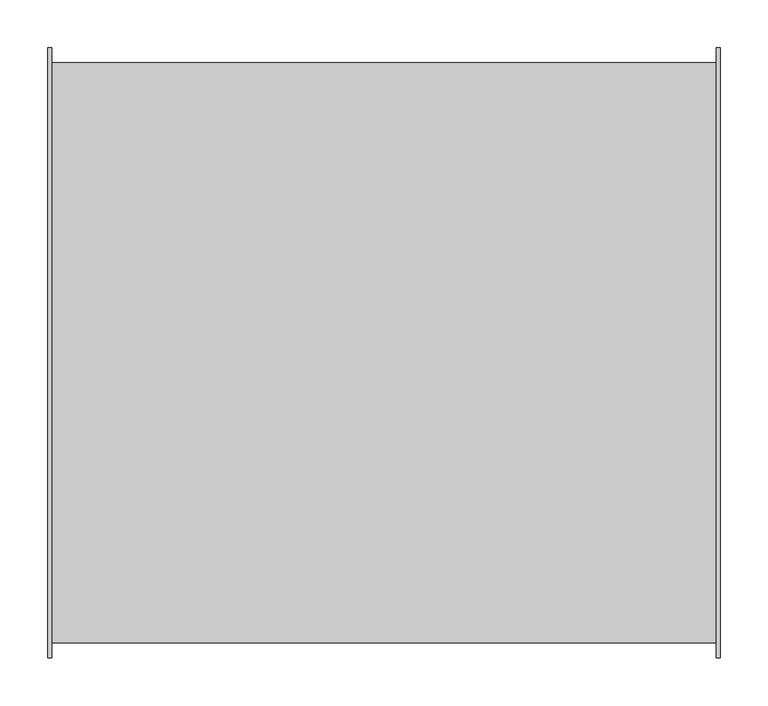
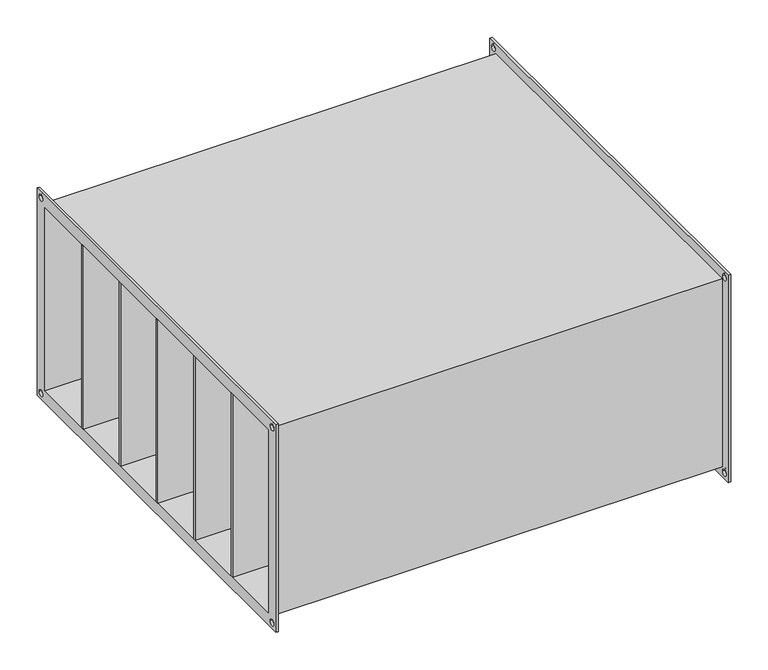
"""IFC4 building model written with IfcOpenShell, lengths in millimetres: damper geometry, СВ_ФильтрКарманный_КанальныйПрямоугольный_200-1000_SFPK : SFPK-600x300."""

from ifc_helpers import new_model, si_unit, frame, origin, place, context, project, spatial, polyline, circle_curve, outline, extrude, source, transform, mapped, element, save
from ifc_brep_helpers import plane_surface, revolved_surface, advanced_brep


def damper_8f06f76a(model_context):
    return source(origin(), model_context, "Body", "SolidModel", [
        extrude(outline(polyline([(352.5, 200.0), (352.5, 196.0), (-352.5, 196.0), (-352.5, 200.0), (352.5, 200.0)])), frame((0.0, 0.0, -150.0), z_axis=(0.0, 0.0, 1.0), x_axis=(1.0, 0.0, 0.0)), (0.0, 0.0, 1.0), 300.0),
        extrude(outline(polyline([(352.5, 100.0), (352.5, 96.0), (-352.5, 96.0), (-352.5, 100.0), (352.5, 100.0)])), frame((0.0, 0.0, -150.0), z_axis=(0.0, 0.0, 1.0), x_axis=(1.0, 0.0, 0.0)), (0.0, 0.0, 1.0), 300.0),
        extrude(outline(polyline([(352.5, 0.0), (352.5, -4.0), (-352.5, -4.0), (-352.5, 0.0), (352.5, 0.0)])), frame((0.0, 0.0, -150.0), z_axis=(0.0, 0.0, 1.0), x_axis=(1.0, 0.0, 0.0)), (0.0, 0.0, 1.0), 300.0),
        extrude(outline(polyline([(352.5, -100.0), (352.5, -104.0), (-352.5, -104.0), (-352.5, -100.0), (352.5, -100.0)])), frame((0.0, 0.0, -150.0), z_axis=(0.0, 0.0, 1.0), x_axis=(1.0, 0.0, 0.0)), (0.0, 0.0, 1.0), 300.0),
        extrude(outline(polyline([(352.5, -200.0), (352.5, -204.0), (-352.5, -204.0), (-352.5, -200.0), (352.5, -200.0)])), frame((0.0, 0.0, -150.0), z_axis=(0.0, 0.0, 1.0), x_axis=(1.0, 0.0, 0.0)), (0.0, 0.0, 1.0), 300.0),
        advanced_brep(
        [(348.5, -304.0, 154.0), (-348.5, -304.0, 154.0), (-348.5, -304.0, -154.0), (348.5, -304.0, -154.0), (-348.5, 304.0, -154.0), (348.5, 304.0, -154.0), (-348.5, 304.0, 154.0), (348.5, 304.0, 154.0), (-352.5, -320.0, 170.0), (-352.5, 320.0, 170.0), (-352.5, 320.0, -170.0), (-352.5, -320.0, -170.0), (-352.5, -300.0, 150.0), (-352.5, -300.0, -150.0), (-352.5, 300.0, -150.0), (-352.5, 300.0, 150.0), (-352.5, 305.0, 160.0), (-352.5, 315.0, 160.0), (-352.5, -315.0, 160.0), (-352.5, -305.0, 160.0), (-352.5, -315.0, -160.0), (-352.5, -305.0, -160.0), (-352.5, 305.0, -160.0), (-352.5, 315.0, -160.0), (-348.5, -320.0, 170.0), (-348.5, -320.0, -170.0), (-348.5, 320.0, -170.0), (-348.5, 320.0, 170.0), (-348.5, 315.0, 160.0), (-348.5, 305.0, 160.0), (-348.5, -305.0, 160.0), (-348.5, -315.0, 160.0), (-348.5, -305.0, -160.0), (-348.5, -315.0, -160.0), (-348.5, 315.0, -160.0), (-348.5, 305.0, -160.0), (348.5, 320.0, 170.0), (348.5, 320.0, -170.0), (348.5, -320.0, -170.0), (348.5, -320.0, 170.0), (348.5, 305.0, 160.0), (348.5, 315.0, 160.0), (348.5, -315.0, 160.0), (348.5, -305.0, 160.0), (348.5, -315.0, -160.0), (348.5, -305.0, -160.0), (348.5, 305.0, -160.0), (348.5, 315.0, -160.0), (352.5, 320.0, 170.0), (352.5, -320.0, 170.0), (352.5, -320.0, -170.0), (352.5, 320.0, -170.0), (352.5, 300.0, 150.0), (352.5, 300.0, -150.0), (352.5, -300.0, -150.0), (352.5, -300.0, 150.0), (352.5, 315.0, 160.0), (352.5, 305.0, 160.0), (352.5, -305.0, 160.0), (352.5, -315.0, 160.0), (352.5, -305.0, -160.0), (352.5, -315.0, -160.0), (352.5, 315.0, -160.0), (352.5, 305.0, -160.0)],
        [
            (0, 1),
            (1, 2),
            (2, 3),
            (3, 0),
            (2, 4),
            (4, 5),
            (5, 3),
            (4, 6),
            (6, 7),
            (7, 5),
            (0, 7),
            (6, 1),
            (8, 9),
            (9, 10),
            (10, 11),
            (11, 8),
            (12, 13),
            (13, 14),
            (14, 15),
            (15, 12),
            (16, 17, circle_curve(frame((-352.5, 310.0, 160.0), z_axis=(1.0, 0.0, 0.0), x_axis=(0.0, 1.0, 0.0)), 5.0)),
            (17, 16, circle_curve(frame((-352.5, 310.0, 160.0), z_axis=(1.0, 0.0, 0.0), x_axis=(0.0, 1.0, 0.0)), 5.0)),
            (18, 19, circle_curve(frame((-352.5, -310.0, 160.0), z_axis=(1.0, 0.0, 0.0), x_axis=(0.0, 1.0, 0.0)), 5.0)),
            (19, 18, circle_curve(frame((-352.5, -310.0, 160.0), z_axis=(1.0, 0.0, 0.0), x_axis=(0.0, 1.0, 0.0)), 5.0)),
            (20, 21, circle_curve(frame((-352.5, -310.0, -160.0), z_axis=(1.0, 0.0, 0.0), x_axis=(0.0, 1.0, 0.0)), 5.0)),
            (21, 20, circle_curve(frame((-352.5, -310.0, -160.0), z_axis=(1.0, 0.0, 0.0), x_axis=(0.0, 1.0, 0.0)), 5.0)),
            (22, 23, circle_curve(frame((-352.5, 310.0, -160.0), z_axis=(1.0, 0.0, 0.0), x_axis=(0.0, 1.0, 0.0)), 5.0)),
            (23, 22, circle_curve(frame((-352.5, 310.0, -160.0), z_axis=(1.0, 0.0, 0.0), x_axis=(0.0, 1.0, 0.0)), 5.0)),
            (24, 25),
            (25, 26),
            (26, 27),
            (27, 24),
            (28, 29, circle_curve(frame((-348.5, 310.0, 160.0), z_axis=(-1.0, 0.0, 0.0), x_axis=(0.0, 1.0, 0.0)), 5.0)),
            (29, 28, circle_curve(frame((-348.5, 310.0, 160.0), z_axis=(-1.0, 0.0, 0.0), x_axis=(0.0, 1.0, 0.0)), 5.0)),
            (30, 31, circle_curve(frame((-348.5, -310.0, 160.0), z_axis=(-1.0, 0.0, 0.0), x_axis=(0.0, 1.0, 0.0)), 5.0)),
            (31, 30, circle_curve(frame((-348.5, -310.0, 160.0), z_axis=(-1.0, 0.0, 0.0), x_axis=(0.0, 1.0, 0.0)), 5.0)),
            (32, 33, circle_curve(frame((-348.5, -310.0, -160.0), z_axis=(-1.0, 0.0, 0.0), x_axis=(0.0, 1.0, 0.0)), 5.0)),
            (33, 32, circle_curve(frame((-348.5, -310.0, -160.0), z_axis=(-1.0, 0.0, 0.0), x_axis=(0.0, 1.0, 0.0)), 5.0)),
            (34, 35, circle_curve(frame((-348.5, 310.0, -160.0), z_axis=(-1.0, 0.0, 0.0), x_axis=(0.0, 1.0, 0.0)), 5.0)),
            (35, 34, circle_curve(frame((-348.5, 310.0, -160.0), z_axis=(-1.0, 0.0, 0.0), x_axis=(0.0, 1.0, 0.0)), 5.0)),
            (11, 25),
            (24, 8),
            (10, 26),
            (9, 27),
            (36, 37),
            (37, 38),
            (38, 39),
            (39, 36),
            (40, 41, circle_curve(frame((348.5, 310.0, 160.0), z_axis=(1.0, 0.0, 0.0), x_axis=(0.0, 1.0, 0.0)), 5.0)),
            (41, 40, circle_curve(frame((348.5, 310.0, 160.0), z_axis=(1.0, 0.0, 0.0), x_axis=(0.0, 1.0, 0.0)), 5.0)),
            (42, 43, circle_curve(frame((348.5, -310.0, 160.0), z_axis=(1.0, 0.0, 0.0), x_axis=(0.0, 1.0, 0.0)), 5.0)),
            (43, 42, circle_curve(frame((348.5, -310.0, 160.0), z_axis=(1.0, 0.0, 0.0), x_axis=(0.0, 1.0, 0.0)), 5.0)),
            (44, 45, circle_curve(frame((348.5, -310.0, -160.0), z_axis=(1.0, 0.0, 0.0), x_axis=(0.0, 1.0, 0.0)), 5.0)),
            (45, 44, circle_curve(frame((348.5, -310.0, -160.0), z_axis=(1.0, 0.0, 0.0), x_axis=(0.0, 1.0, 0.0)), 5.0)),
            (46, 47, circle_curve(frame((348.5, 310.0, -160.0), z_axis=(1.0, 0.0, 0.0), x_axis=(0.0, 1.0, 0.0)), 5.0)),
            (47, 46, circle_curve(frame((348.5, 310.0, -160.0), z_axis=(1.0, 0.0, 0.0), x_axis=(0.0, 1.0, 0.0)), 5.0)),
            (48, 49),
            (49, 50),
            (50, 51),
            (51, 48),
            (52, 53),
            (53, 54),
            (54, 55),
            (55, 52),
            (56, 57, circle_curve(frame((352.5, 310.0, 160.0), z_axis=(-1.0, 0.0, 0.0), x_axis=(0.0, 1.0, 0.0)), 5.0)),
            (57, 56, circle_curve(frame((352.5, 310.0, 160.0), z_axis=(-1.0, 0.0, 0.0), x_axis=(0.0, 1.0, 0.0)), 5.0)),
            (58, 59, circle_curve(frame((352.5, -310.0, 160.0), z_axis=(-1.0, 0.0, 0.0), x_axis=(0.0, 1.0, 0.0)), 5.0)),
            (59, 58, circle_curve(frame((352.5, -310.0, 160.0), z_axis=(-1.0, 0.0, 0.0), x_axis=(0.0, 1.0, 0.0)), 5.0)),
            (60, 61, circle_curve(frame((352.5, -310.0, -160.0), z_axis=(-1.0, 0.0, 0.0), x_axis=(0.0, 1.0, 0.0)), 5.0)),
            (61, 60, circle_curve(frame((352.5, -310.0, -160.0), z_axis=(-1.0, 0.0, 0.0), x_axis=(0.0, 1.0, 0.0)), 5.0)),
            (62, 63, circle_curve(frame((352.5, 310.0, -160.0), z_axis=(-1.0, 0.0, 0.0), x_axis=(0.0, 1.0, 0.0)), 5.0)),
            (63, 62, circle_curve(frame((352.5, 310.0, -160.0), z_axis=(-1.0, 0.0, 0.0), x_axis=(0.0, 1.0, 0.0)), 5.0)),
            (39, 49),
            (48, 36),
            (38, 50),
            (37, 51),
            (15, 52),
            (55, 12),
            (14, 53),
            (13, 54),
            (16, 29),
            (28, 17),
            (40, 57),
            (56, 41),
            (18, 31),
            (30, 19),
            (42, 59),
            (58, 43),
            (20, 33),
            (32, 21),
            (44, 61),
            (60, 45),
            (22, 35),
            (34, 23),
            (46, 63),
            (62, 47),
        ],
        [
            plane_surface(frame((348.5, -304.0, 154.0), z_axis=(0.0, -1.0, 0.0), x_axis=(-1.0, 0.0, 0.0))),
            plane_surface(frame((348.5, -304.0, -154.0), z_axis=(0.0, 0.0, -1.0), x_axis=(-1.0, 0.0, 0.0))),
            plane_surface(frame((348.5, 304.0, -154.0), z_axis=(0.0, 1.0, 0.0), x_axis=(-1.0, 0.0, 0.0))),
            plane_surface(frame((348.5, 304.0, 154.0), z_axis=(0.0, 0.0, 1.0), x_axis=(-1.0, 0.0, 0.0))),
            plane_surface(frame((-352.5, -320.0, 170.0), z_axis=(-1.0, 0.0, 0.0), x_axis=(0.0, 0.0, 1.0))),
            plane_surface(frame((-348.5, -320.0, 170.0), z_axis=(1.0, 0.0, 0.0), x_axis=(0.0, 0.0, -1.0))),
            plane_surface(frame((-348.5, -320.0, 170.0), z_axis=(0.0, -1.0, 0.0), x_axis=(-1.0, 0.0, 0.0))),
            plane_surface(frame((-348.5, -320.0, -170.0), z_axis=(0.0, 0.0, -1.0), x_axis=(-1.0, 0.0, 0.0))),
            plane_surface(frame((-348.5, 320.0, -170.0), z_axis=(0.0, 1.0, 0.0), x_axis=(-1.0, 0.0, 0.0))),
            plane_surface(frame((-348.5, 320.0, 170.0), z_axis=(0.0, 0.0, 1.0), x_axis=(-1.0, 0.0, 0.0))),
            plane_surface(frame((348.5, 300.0, -150.0), z_axis=(-1.0, 0.0, 0.0), x_axis=(0.0, 0.0, 1.0))),
            plane_surface(frame((352.5, 300.0, -150.0), z_axis=(1.0, 0.0, 0.0), x_axis=(0.0, 0.0, -1.0))),
            plane_surface(frame((352.5, 320.0, 170.0), z_axis=(0.0, 0.0, 1.0), x_axis=(-1.0, 0.0, 0.0))),
            plane_surface(frame((352.5, -320.0, 170.0), z_axis=(0.0, -1.0, 0.0), x_axis=(-1.0, 0.0, 0.0))),
            plane_surface(frame((352.5, -320.0, -170.0), z_axis=(0.0, 0.0, -1.0), x_axis=(-1.0, 0.0, 0.0))),
            plane_surface(frame((352.5, 320.0, -170.0), z_axis=(0.0, 1.0, 0.0), x_axis=(-1.0, 0.0, 0.0))),
            plane_surface(frame((-348.5, -300.0, 150.0), z_axis=(0.0, 0.0, -1.0), x_axis=(-1.0, 0.0, 0.0))),
            plane_surface(frame((-348.5, 300.0, 150.0), z_axis=(0.0, -1.0, 0.0), x_axis=(-1.0, 0.0, 0.0))),
            plane_surface(frame((-348.5, 300.0, -150.0), z_axis=(0.0, 0.0, 1.0), x_axis=(-1.0, 0.0, 0.0))),
            plane_surface(frame((-348.5, -300.0, -150.0), z_axis=(0.0, 1.0, 0.0), x_axis=(-1.0, 0.0, 0.0))),
            revolved_surface(polyline([(-348.5, 315.0, 160.0), (-352.5, 315.0, 160.0)]), (-352.5, 310.0, 160.0), (1.0, 0.0, 0.0)),
            revolved_surface(polyline([(352.5, 315.0, 160.0), (348.5, 315.0, 160.0)]), (-352.5, 310.0, 160.0), (1.0, 0.0, 0.0)),
            revolved_surface(polyline([(-348.5, -305.0, 160.0), (-352.5, -305.0, 160.0)]), (0.0, -310.0, 160.0), (1.0, 0.0, 0.0)),
            revolved_surface(polyline([(352.5, -305.0, 160.0), (348.5, -305.0, 160.0)]), (0.0, -310.0, 160.0), (1.0, 0.0, 0.0)),
            revolved_surface(polyline([(-348.5, -305.0, -160.0), (-352.5, -305.0, -160.0)]), (0.0, -310.0, -160.0), (1.0, 0.0, 0.0)),
            revolved_surface(polyline([(352.5, -305.0, -160.0), (348.5, -305.0, -160.0)]), (0.0, -310.0, -160.0), (1.0, 0.0, 0.0)),
            revolved_surface(polyline([(-348.5, 315.0, -160.0), (-352.5, 315.0, -160.0)]), (0.0, 310.0, -160.0), (1.0, 0.0, 0.0)),
            revolved_surface(polyline([(352.5, 315.0, -160.0), (348.5, 315.0, -160.0)]), (0.0, 310.0, -160.0), (1.0, 0.0, 0.0)),
        ],
        [
            (0, [[1, 2, 3, 4]]),
            (1, [[-3, 5, 6, 7]]),
            (2, [[-6, 8, 9, 10]]),
            (3, [[-1, 11, -9, 12]]),
            (4, [[13, 14, 15, 16], [17, 18, 19, 20], [21, 22], [23, 24], [25, 26], [27, 28]]),
            (5, [[29, 30, 31, 32], [-2, -12, -8, -5], [33, 34], [35, 36], [37, 38], [39, 40]]),
            (6, [[-16, 41, -29, 42]]),
            (7, [[-15, 43, -30, -41]]),
            (8, [[-14, 44, -31, -43]]),
            (9, [[-13, -42, -32, -44]]),
            (10, [[45, 46, 47, 48], [-4, -7, -10, -11], [49, 50], [51, 52], [53, 54], [55, 56]]),
            (11, [[57, 58, 59, 60], [61, 62, 63, 64], [65, 66], [67, 68], [69, 70], [71, 72]]),
            (12, [[-48, 73, -57, 74]]),
            (13, [[-47, 75, -58, -73]]),
            (14, [[-46, 76, -59, -75]]),
            (15, [[-45, -74, -60, -76]]),
            (16, [[-20, 77, -64, 78]]),
            (17, [[-77, -19, 79, -61]]),
            (18, [[-79, -18, 80, -62]]),
            (19, [[-80, -17, -78, -63]]),
            (20, [[81, -33, 82, -21]]),
            (21, [[83, -65, 84, -49]]),
            (20, [[-81, -22, -82, -34]]),
            (21, [[-83, -50, -84, -66]]),
            (22, [[85, -35, 86, -23]]),
            (23, [[87, -67, 88, -51]]),
            (22, [[-85, -24, -86, -36]]),
            (23, [[-87, -52, -88, -68]]),
            (24, [[89, -37, 90, -25]]),
            (25, [[91, -69, 92, -53]]),
            (24, [[-89, -26, -90, -38]]),
            (25, [[-91, -54, -92, -70]]),
            (26, [[93, -39, 94, -27]]),
            (27, [[95, -71, 96, -55]]),
            (26, [[-93, -28, -94, -40]]),
            (27, [[-95, -56, -96, -72]]),
        ],
    ),
    ])


if __name__ == "__main__":
    model = new_model("IFC4")
    model_context = context("Model", 3, world=origin())
    ifc_project = project(units=[si_unit("LENGTHUNIT", "METRE", prefix="MILLI")], contexts=[model_context])
    site = spatial("IfcSite", under=ifc_project)
    building = spatial("IfcBuilding", under=site)
    placement = place(None, origin())
    damper_shape = damper_8f06f76a(model_context)
    element("IfcDamper", 1, ObjectType="СВ_ФильтрКарманный_КанальныйПрямоугольный_200-1000_SFPK : SFPK-600x300", at=placement, inside=building, context=model_context, shape_type="MappedRepresentation", body=[
        mapped(damper_shape, transform((0.0, 0.0, 0.0), x_axis=(1.0, 0.0, 0.0), y_axis=(0.0, 1.0, 0.0), z_axis=(0.0, 0.0, 1.0))),
    ])
    save(model, "model.ifc")
